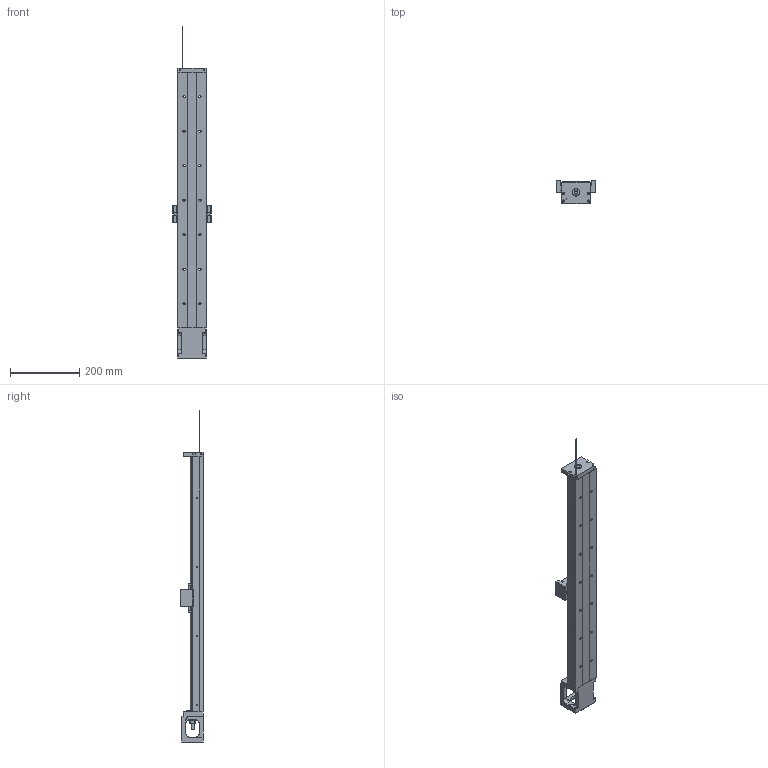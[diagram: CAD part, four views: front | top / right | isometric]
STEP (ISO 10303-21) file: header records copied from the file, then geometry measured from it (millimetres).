
FILE_DESCRIPTION(/* description */ (''),/* implementation_level */ '2;1');
FILE_NAME(/* name */ '46S-740.stp',/* time_stamp */ '2016-12-20T14:08:33+08:00',/* author */ (''),/* organization */ (''),/* preprocessor_version */ 'ST-DEVELOPER v11',/* originating_system */ 'SIEMENS UGS NX 6.0',/* authorisation */ '');
FILE_SCHEMA (('AUTOMOTIVE_DESIGN { 1 0 10303 214 1 1 1 1 }'));
Length unit declared in the file: millimetre
Products named in the file (1): model4
Bounding box: 112 x 68 x 961.69 mm (x, y, z)
Volume: 1729779.1 mm3; surface area: 381134.7 mm2
Topology: 6 solids, 17 shells, 692 faces, 1813 edges, 1198 vertices
Faces by surface type: plane 328, cylinder 248, cone 58, bspline 50, torus 8
Full cylindrical faces by diameter (mm): 2 x2, 2.11 x2, 2.15 x8, 2.42 x6, 2.5 x4, 3 x4, 3.2 x4, 3.3 x12, 3.4 x8, 4 x2, 4.2 x4, 4.5 x8, 5 x8, 6 x8, 6.35 x2, 6.6 x14, 6.7 x2, 8 x1, 8.7 x4, 9.6 x1, 10 x3, 11 x14, 12 x1, 14.95 x2, 15 x1, 16 x2, 22 x3, 27.5 x1, 44 x1, 50 x1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
Entity records: 31317 total; most frequent: CARTESIAN_POINT 13129, ORIENTED_EDGE 3108, DIRECTION 3002, EDGE_CURVE 1554, VERTEX_POINT 1123, AXIS2_PLACEMENT_3D 1119, EDGE_LOOP 983, LINE 764
